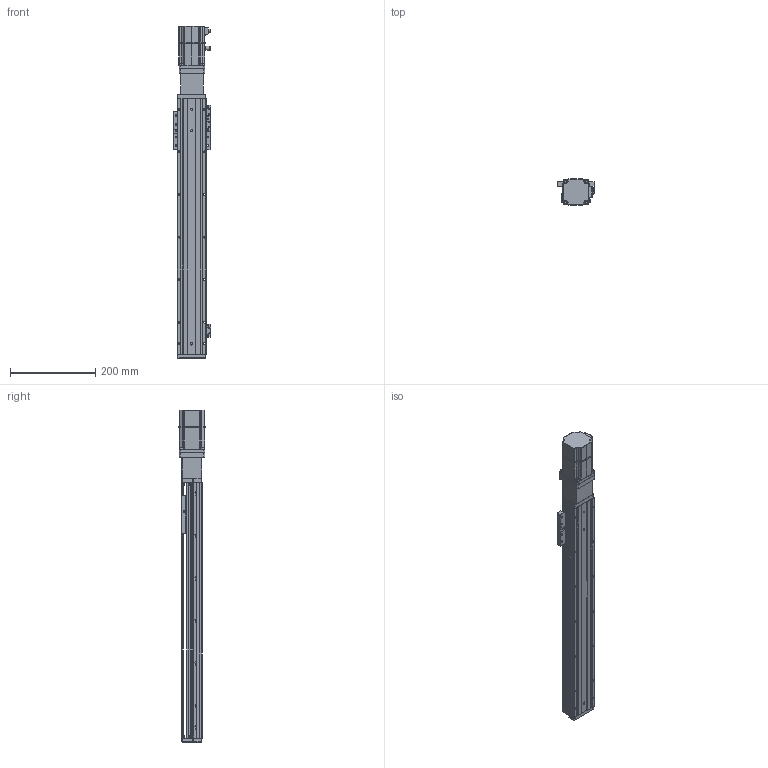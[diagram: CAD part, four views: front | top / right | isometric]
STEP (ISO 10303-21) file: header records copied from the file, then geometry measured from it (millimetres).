
FILE_DESCRIPTION (( 'STEP AP203' ), '1' );
FILE_NAME ('KTHAL60-450-BC-M20-C4L.step', '2022-12-16T01:58:25', ( '微软用户' ), ( '微软中国' ), 'SwSTEP 2.0', 'SolidWorks 2020', '' );
FILE_SCHEMA (( 'CONFIG_CONTROL_DESIGN' ));
Length unit declared in the file: millimetre
Products named in the file (18): KTHA60-001_600; CTHA60-017; CTHA60-013; KTHLA60-002; CTHA60-021; CTHA60-006-3_M20B; KTHA60-004; GBT 70.1-M4×16; _X2_4E0983F1_X0_200W_1; KTHA60-005; GBT77-2000M3-3; KTHAL60-450-BC-M20-C4L; GB¨uT 70.2-M3¡Á5_M3¡Á6; GBT 70.1-M3℅6; GBT 70.3-M3℅6; CTHA60-016; EE_SX911P_R; CTHA60-027
Assembly tree (48 placements, depth 2):
  KTHAL60-450-BC-M20-C4L
    KTHA60-001_600
    KTHLA60-002
    KTHA60-004
    KTHA60-005
    GB¨uT 70.2-M3¡Á5_M3¡Á6  x5
    GBT 70.3-M3℅6  x6
    EE_SX911P_R  x3
    CTHA60-017  x3
    CTHA60-021  x2
    GBT 70.1-M4×16  x8
    GBT77-2000M3-3  x6
    GBT 70.1-M3℅6  x6
    CTHA60-016
    CTHA60-027
    CTHA60-013
    CTHA60-006-3_M20B
    _X2_4E0983F1_X0_200W_1
Bounding box: 87.82 x 62.42 x 779.7 mm (x, y, z)
Volume: 1587330.3 mm3; surface area: 372982.9 mm2
Topology: 51 solids, 51 shells, 2306 faces, 5467 edges, 3349 vertices
Faces by surface type: plane 1249, cylinder 603, cone 293, torus 78, bspline 69, sphere 14
Entity records: 41773 total; most frequent: CARTESIAN_POINT 8054, DIRECTION 6568, ORIENTED_EDGE 6330, EDGE_CURVE 3165, AXIS2_PLACEMENT_3D 2255, VECTOR 2058, LINE 2058, VERTEX_POINT 1971
